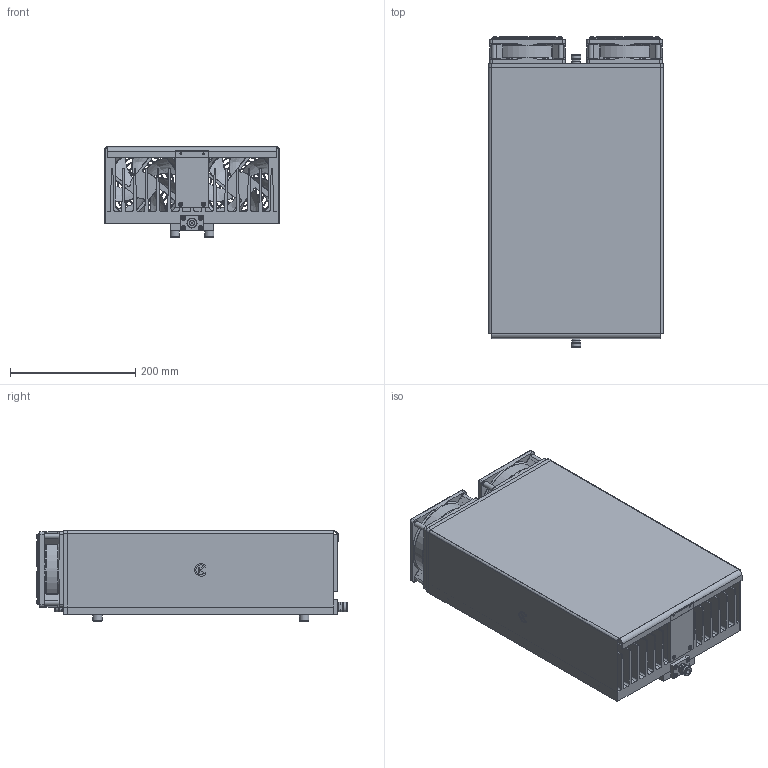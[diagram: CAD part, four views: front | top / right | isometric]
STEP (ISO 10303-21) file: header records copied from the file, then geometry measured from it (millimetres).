
FILE_DESCRIPTION(('STEP AP203'), '1');
FILE_NAME('栖闉罻 1500 鎗', '', ('UNSPECIFIED'), ('UNSPECIFIED'), 'C3D Converter', 'C3D Toolkit', '');
FILE_SCHEMA(('CONFIG_CONTROL_DESIGN'));
Length unit declared in the file: millimetre
Products named in the file (21): -01; Вентилятор 120x120x25; Вентилятор_винт 120х120х25; Вентилятор_основа 120х120х25
Assembly tree (57 placements, depth 3):
  (unnamed)
    (unnamed)
    (unnamed)
    (unnamed)
    (unnamed)
    (unnamed)
    (unnamed)
    -01
    (unnamed)
    Вентилятор 120x120x25  x2
      Вентилятор_винт 120х120х25
      Вентилятор_основа 120х120х25
    (unnamed)  x10
    -01  x6
    (unnamed)
    -01
    (unnamed)  x21
    (unnamed)  x2
    -01  x2
    (unnamed)
    -01
Bounding box: 278 x 495 x 144 mm (x, y, z)
Volume: 4930502.5 mm3; surface area: 1901978.5 mm2
Topology: 57 solids, 57 shells, 3040 faces, 8158 edges, 4970 vertices
Faces by surface type: plane 1181, bspline 816, cylinder 709, torus 194, cone 140
Full cylindrical faces by diameter (mm): 1.66 x2, 2.459 x25, 2.5 x3, 3 x22, 3.04 x2, 3.2 x2, 3.242 x8, 3.5 x8, 4.134 x16, 5 x16, 5.5 x57, 6 x1, 7 x12, 8 x1, 8.06 x2, 8.5 x20, 10 x17, 11.6 x2, 14 x4, 15 x4, 15.87 x2, 16 x4, 20 x6, 23 x2, 35 x2, 38 x2, 42 x2, 50 x2, 53 x2, 65 x2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
Entity records: 83981 total; most frequent: CARTESIAN_POINT 25430, ORIENTED_EDGE 9172, DIRECTION 8128, EDGE_CURVE 4586, AXIS2_PLACEMENT_3D 3100, VERTEX_POINT 3040, EDGE_LOOP 2384, FACE_BOUND 2101
